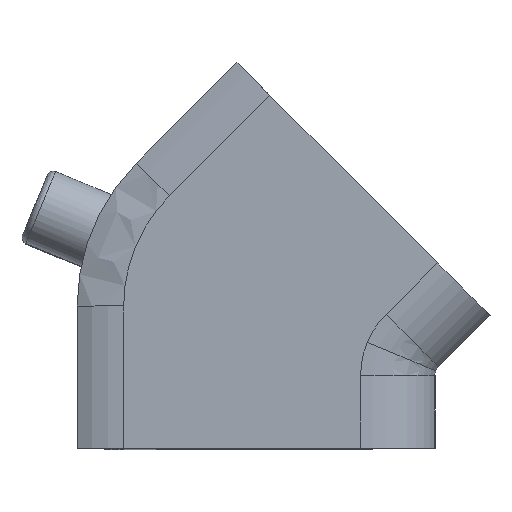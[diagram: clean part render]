
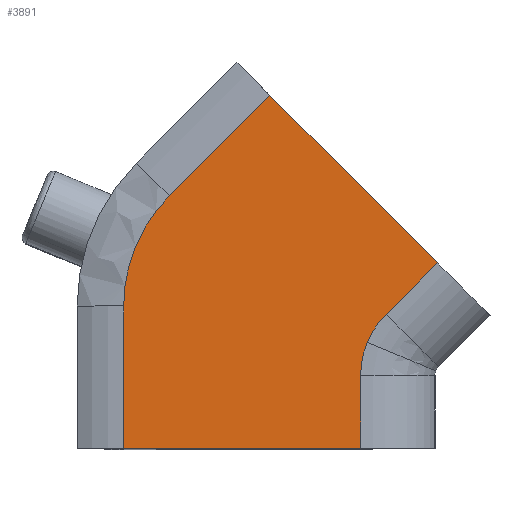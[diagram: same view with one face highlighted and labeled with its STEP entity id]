
A CAD part, top view. The second image highlights one B-rep face of the part: STEP entity #3891.
In plain terms, the highlighted planar face has unit normal (0, 0, 1).
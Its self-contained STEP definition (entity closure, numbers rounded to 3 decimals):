
#1 = LINE ( 'NONE', #1996, #2965 ) ;
#7 = B_SPLINE_CURVE_WITH_KNOTS ( 'NONE', 3,
 ( #3365, #420, #1417, #1396 ),
 .UNSPECIFIED., .F., .F.,
 ( 4, 4 ),
 ( 0., 1. ),
 .UNSPECIFIED. ) ;
#95 = ORIENTED_EDGE ( 'NONE', *, *, #3432, .F. ) ;
#160 = CARTESIAN_POINT ( 'NONE',  ( 7.617, 2.702, 0. ) ) ;
#257 = EDGE_CURVE ( 'NONE', #2854, #1813, #1823, .T. ) ;
#264 = DIRECTION ( 'NONE',  ( 0., -1., 0. ) ) ;
#322 = CARTESIAN_POINT ( 'NONE',  ( 0., 5.23, 0. ) ) ;
#392 = CARTESIAN_POINT ( 'NONE',  ( 7.829, 3.402, 0. ) ) ;
#420 = CARTESIAN_POINT ( 'NONE',  ( 7.97, 3.741, 0. ) ) ;
#539 = ORIENTED_EDGE ( 'NONE', *, *, #708, .T. ) ;
#610 = CARTESIAN_POINT ( 'NONE',  ( 1.466, 8.111, 0. ) ) ;
#616 = VERTEX_POINT ( 'NONE', #3935 ) ;
#637 = EDGE_LOOP ( 'NONE', ( #2320, #539, #658, #1698, #2757, #3133, #95, #3921, #681, #697 ) ) ;
#645 = CARTESIAN_POINT ( 'NONE',  ( 7.617, 2.334, 0. ) ) ;
#658 = ORIENTED_EDGE ( 'NONE', *, *, #257, .T. ) ;
#672 = CARTESIAN_POINT ( 'NONE',  ( 0., 4.572, 0. ) ) ;
#681 = ORIENTED_EDGE ( 'NONE', *, *, #790, .F. ) ;
#697 = ORIENTED_EDGE ( 'NONE', *, *, #2386, .F. ) ;
#708 = EDGE_CURVE ( 'NONE', #966, #2854, #1973, .T. ) ;
#751 = CARTESIAN_POINT ( 'NONE',  ( 7.689, 3.063, 0. ) ) ;
#763 = EDGE_CURVE ( 'NONE', #2821, #3176, #7, .T. ) ;
#790 = EDGE_CURVE ( 'NONE', #4292, #3176, #1, .T. ) ;
#812 = EDGE_CURVE ( 'NONE', #616, #3598, #3063, .T. ) ;
#840 = CARTESIAN_POINT ( 'NONE',  ( 0.381, 6.488, 0. ) ) ;
#872 = EDGE_CURVE ( 'NONE', #3598, #2522, #2659, .T. ) ;
#930 = LINE ( 'NONE', #1296, #1650 ) ;
#966 = VERTEX_POINT ( 'NONE', #610 ) ;
#1021 = CARTESIAN_POINT ( 'NONE',  ( 10.589, 11.912, 0. ) ) ;
#1027 = DIRECTION ( 'NONE',  ( 0., 1., 0. ) ) ;
#1034 = VECTOR ( 'NONE', #2947, 1000. ) ;
#1205 = LINE ( 'NONE', #1844, #3101 ) ;
#1296 = CARTESIAN_POINT ( 'NONE',  ( 4.699, 11.344, 0. ) ) ;
#1396 = CARTESIAN_POINT ( 'NONE',  ( 8.434, 4.308, 0. ) ) ;
#1417 = CARTESIAN_POINT ( 'NONE',  ( 8.175, 4.048, 0. ) ) ;
#1584 = CARTESIAN_POINT ( 'NONE',  ( 1.466, 8.111, 0. ) ) ;
#1650 = VECTOR ( 'NONE', #2957, 1000. ) ;
#1698 = ORIENTED_EDGE ( 'NONE', *, *, #3757, .T. ) ;
#1805 = CARTESIAN_POINT ( 'NONE',  ( 7.829, 3.402, 0. ) ) ;
#1813 = VERTEX_POINT ( 'NONE', #3016 ) ;
#1823 = B_SPLINE_CURVE_WITH_KNOTS ( 'NONE', 3,
 ( #2036, #3317, #322, #672 ),
 .UNSPECIFIED., .F., .F.,
 ( 4, 4 ),
 ( 0., 1. ),
 .UNSPECIFIED. ) ;
#1844 = CARTESIAN_POINT ( 'NONE',  ( 0., 11.912, 0. ) ) ;
#1864 = EDGE_CURVE ( 'NONE', #3627, #966, #2596, .T. ) ;
#1926 = FACE_OUTER_BOUND ( 'NONE', #637, .T. ) ;
#1973 = B_SPLINE_CURVE_WITH_KNOTS ( 'NONE', 3,
 ( #1584, #2914, #2255, #3392 ),
 .UNSPECIFIED., .F., .F.,
 ( 4, 4 ),
 ( 0., 1. ),
 .UNSPECIFIED. ) ;
#1996 = CARTESIAN_POINT ( 'NONE',  ( 10.085, 5.958, 0. ) ) ;
#2015 = DIRECTION ( 'NONE',  ( -1., 0., 0. ) ) ;
#2036 = CARTESIAN_POINT ( 'NONE',  ( 0.381, 6.488, 0. ) ) ;
#2088 = CARTESIAN_POINT ( 'NONE',  ( 7.617, 0., 0. ) ) ;
#2106 = CARTESIAN_POINT ( 'NONE',  ( 7.617, 2.334, 0. ) ) ;
#2255 = CARTESIAN_POINT ( 'NONE',  ( 0.633, 7.095, 0. ) ) ;
#2317 = CARTESIAN_POINT ( 'NONE',  ( 10.589, 0., 0. ) ) ;
#2320 = ORIENTED_EDGE ( 'NONE', *, *, #1864, .T. ) ;
#2386 = EDGE_CURVE ( 'NONE', #3627, #4292, #930, .T. ) ;
#2404 = DIRECTION ( 'NONE',  ( -0.707, -0.707, 0. ) ) ;
#2522 = VERTEX_POINT ( 'NONE', #645 ) ;
#2596 = LINE ( 'NONE', #3931, #1034 ) ;
#2659 = LINE ( 'NONE', #4005, #4222 ) ;
#2757 = ORIENTED_EDGE ( 'NONE', *, *, #812, .T. ) ;
#2821 = VERTEX_POINT ( 'NONE', #392 ) ;
#2854 = VERTEX_POINT ( 'NONE', #840 ) ;
#2914 = CARTESIAN_POINT ( 'NONE',  ( 1.001, 7.646, 0. ) ) ;
#2947 = DIRECTION ( 'NONE',  ( -0.707, -0.707, 0. ) ) ;
#2957 = DIRECTION ( 'NONE',  ( 0.707, -0.707, 0. ) ) ;
#2965 = VECTOR ( 'NONE', #2404, 1000. ) ;
#2967 = CARTESIAN_POINT ( 'NONE',  ( 8.434, 4.308, 0. ) ) ;
#3016 = CARTESIAN_POINT ( 'NONE',  ( 0., 4.572, 0. ) ) ;
#3033 = VECTOR ( 'NONE', #4031, 1000. ) ;
#3063 = LINE ( 'NONE', #2317, #3033 ) ;
#3101 = VECTOR ( 'NONE', #264, 1000. ) ;
#3133 = ORIENTED_EDGE ( 'NONE', *, *, #872, .T. ) ;
#3176 = VERTEX_POINT ( 'NONE', #2967 ) ;
#3317 = CARTESIAN_POINT ( 'NONE',  ( 0.13, 5.88, 0. ) ) ;
#3365 = CARTESIAN_POINT ( 'NONE',  ( 7.829, 3.402, 0. ) ) ;
#3392 = CARTESIAN_POINT ( 'NONE',  ( 0.381, 6.488, 0. ) ) ;
#3432 = EDGE_CURVE ( 'NONE', #2821, #2522, #3621, .T. ) ;
#3581 = PLANE ( 'NONE',  #4012 ) ;
#3598 = VERTEX_POINT ( 'NONE', #2088 ) ;
#3621 =( BOUNDED_CURVE ( )  B_SPLINE_CURVE ( 3, ( #1805, #751, #160, #2106 ),
 .UNSPECIFIED., .F., .T. ) 
 B_SPLINE_CURVE_WITH_KNOTS ( ( 4, 4 ),
 ( 2.749, 3.142 ),
 .UNSPECIFIED. ) 
 CURVE ( )  GEOMETRIC_REPRESENTATION_ITEM ( )  RATIONAL_B_SPLINE_CURVE ( ( 1., 0.987, 0.987, 1. ) ) 
 REPRESENTATION_ITEM ( '' )  );
#3627 = VERTEX_POINT ( 'NONE', #3718 ) ;
#3671 = DIRECTION ( 'NONE',  ( 0., 0., 1. ) ) ;
#3718 = CARTESIAN_POINT ( 'NONE',  ( 4.699, 11.344, 0. ) ) ;
#3757 = EDGE_CURVE ( 'NONE', #1813, #616, #1205, .T. ) ;
#3772 = CARTESIAN_POINT ( 'NONE',  ( 10.085, 5.958, 0. ) ) ;
#3891 = ADVANCED_FACE ( 'NONE', ( #1926 ), #3581, .T. ) ;
#3921 = ORIENTED_EDGE ( 'NONE', *, *, #763, .T. ) ;
#3931 = CARTESIAN_POINT ( 'NONE',  ( 4.699, 11.344, 0. ) ) ;
#3935 = CARTESIAN_POINT ( 'NONE',  ( 0., 0., 0. ) ) ;
#4005 = CARTESIAN_POINT ( 'NONE',  ( 7.617, 11.912, 0. ) ) ;
#4012 = AXIS2_PLACEMENT_3D ( 'NONE', #1021, #3671, #2015 ) ;
#4031 = DIRECTION ( 'NONE',  ( 1., 0., 0. ) ) ;
#4222 = VECTOR ( 'NONE', #1027, 1000. ) ;
#4292 = VERTEX_POINT ( 'NONE', #3772 ) ;
